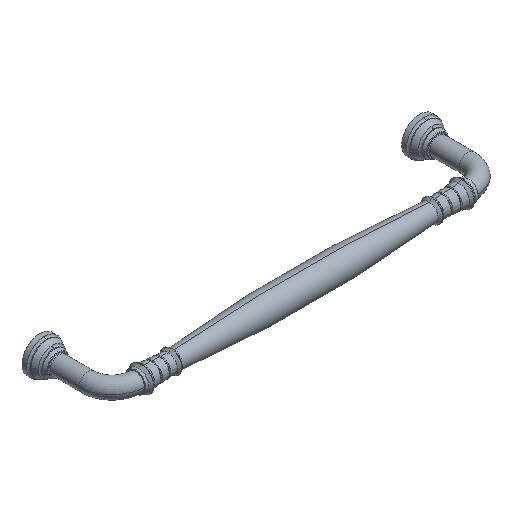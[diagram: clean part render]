
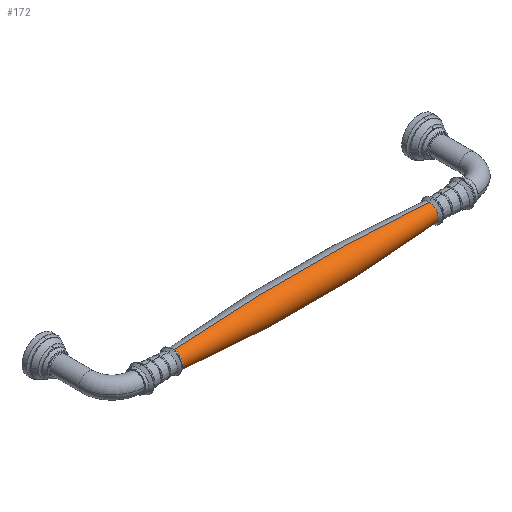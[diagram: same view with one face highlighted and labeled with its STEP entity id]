
A CAD part, isometric view. The second image highlights one B-rep face of the part: STEP entity #172.
In plain terms, the highlighted toroidal (fillet/blend) face has major radius 524.39 mm and minor radius 529.14 mm.
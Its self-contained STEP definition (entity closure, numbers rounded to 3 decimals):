
#172 = ADVANCED_FACE( '', ( #396 ), #397, .T. );
#396 = FACE_OUTER_BOUND( '', #649, .T. );
#397 = TOROIDAL_SURFACE( '', #650, -524.39, 529.14 );
#649 = EDGE_LOOP( '', ( #1427, #1428, #1429, #1430, #1431, #1432 ) );
#650 = AXIS2_PLACEMENT_3D( '', #1433, #1434, #1435 );
#1427 = ORIENTED_EDGE( '', *, *, #1783, .T. );
#1428 = ORIENTED_EDGE( '', *, *, #1821, .F. );
#1429 = ORIENTED_EDGE( '', *, *, #1820, .F. );
#1430 = ORIENTED_EDGE( '', *, *, #1785, .T. );
#1431 = ORIENTED_EDGE( '', *, *, #1885, .F. );
#1432 = ORIENTED_EDGE( '', *, *, #1886, .F. );
#1433 = CARTESIAN_POINT( '', ( 64.001, -24.25, 0. ) );
#1434 = DIRECTION( '', ( 1., 0., 0. ) );
#1435 = DIRECTION( '', ( 0., 0., -1. ) );
#1783 = EDGE_CURVE( '', #2164, #2165, #2166, .T. );
#1785 = EDGE_CURVE( '', #2169, #2167, #2170, .T. );
#1820 = EDGE_CURVE( '', #2169, #2221, #2222, .T. );
#1821 = EDGE_CURVE( '', #2221, #2165, #2223, .T. );
#1885 = EDGE_CURVE( '', #2321, #2167, #2322, .T. );
#1886 = EDGE_CURVE( '', #2164, #2321, #2323, .T. );
#2164 = VERTEX_POINT( '', #2628 );
#2165 = VERTEX_POINT( '', #2629 );
#2166 = CIRCLE( '', #2630, 529.14 );
#2167 = VERTEX_POINT( '', #2631 );
#2169 = VERTEX_POINT( '', #2633 );
#2170 = CIRCLE( '', #2634, 529.14 );
#2221 = VERTEX_POINT( '', #2700 );
#2222 = CIRCLE( '', #2701, 3. );
#2223 = CIRCLE( '', #2702, 3. );
#2321 = VERTEX_POINT( '', #2813 );
#2322 = CIRCLE( '', #2814, 3. );
#2323 = CIRCLE( '', #2815, 3. );
#2628 = CARTESIAN_POINT( '', ( 21., -24.25, -3. ) );
#2629 = CARTESIAN_POINT( '', ( 107., -24.25, -3. ) );
#2630 = AXIS2_PLACEMENT_3D( '', #3254, #3255, #3256 );
#2631 = CARTESIAN_POINT( '', ( 21., -24.25, 3. ) );
#2633 = CARTESIAN_POINT( '', ( 107., -24.25, 3. ) );
#2634 = AXIS2_PLACEMENT_3D( '', #3260, #3261, #3262 );
#2700 = CARTESIAN_POINT( '', ( 107., -27.25, 0. ) );
#2701 = AXIS2_PLACEMENT_3D( '', #3335, #3336, #3337 );
#2702 = AXIS2_PLACEMENT_3D( '', #3338, #3339, #3340 );
#2813 = CARTESIAN_POINT( '', ( 21., -27.25, 0. ) );
#2814 = AXIS2_PLACEMENT_3D( '', #3504, #3505, #3506 );
#2815 = AXIS2_PLACEMENT_3D( '', #3507, #3508, #3509 );
#3254 = CARTESIAN_POINT( '', ( 64.001, -24.25, 524.39 ) );
#3255 = DIRECTION( '', ( 0., -1., 0. ) );
#3256 = DIRECTION( '', ( 0., 0., -1. ) );
#3260 = CARTESIAN_POINT( '', ( 64.001, -24.25, -524.39 ) );
#3261 = DIRECTION( '', ( 0., -1., 0. ) );
#3262 = DIRECTION( '', ( 0., 0., 1. ) );
#3335 = CARTESIAN_POINT( '', ( 107., -24.25, 0. ) );
#3336 = DIRECTION( '', ( 1., 0., 0. ) );
#3337 = DIRECTION( '', ( 0., -1., 0. ) );
#3338 = CARTESIAN_POINT( '', ( 107., -24.25, 0. ) );
#3339 = DIRECTION( '', ( 1., 0., 0. ) );
#3340 = DIRECTION( '', ( 0., -1., 0. ) );
#3504 = CARTESIAN_POINT( '', ( 21., -24.25, 0. ) );
#3505 = DIRECTION( '', ( -1., 0., 0. ) );
#3506 = DIRECTION( '', ( 0., 0., -1. ) );
#3507 = CARTESIAN_POINT( '', ( 21., -24.25, 0. ) );
#3508 = DIRECTION( '', ( -1., 0., 0. ) );
#3509 = DIRECTION( '', ( 0., 0., -1. ) );
